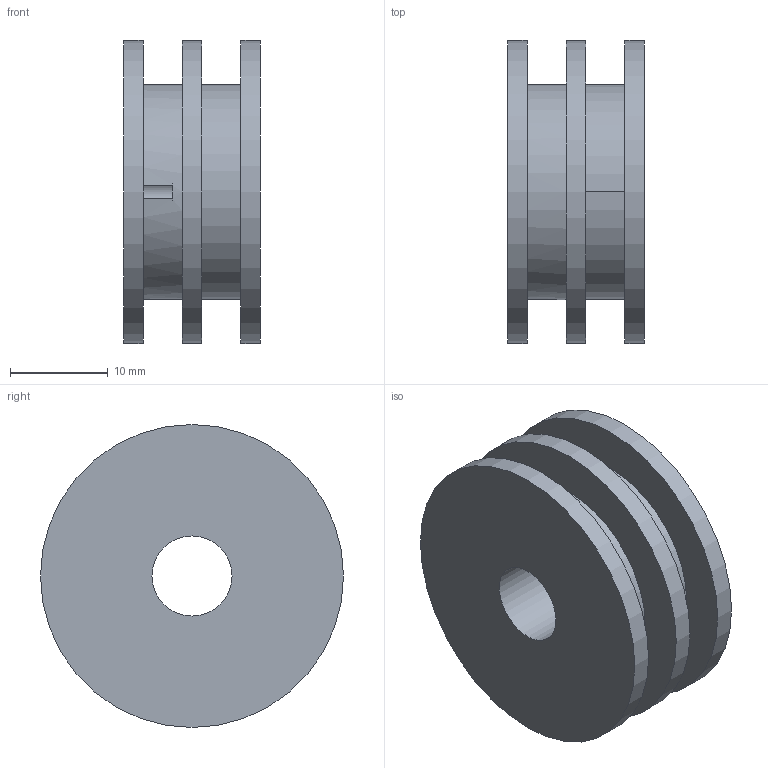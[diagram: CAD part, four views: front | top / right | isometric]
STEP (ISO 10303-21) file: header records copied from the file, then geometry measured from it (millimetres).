
FILE_DESCRIPTION(('Open CASCADE Model'),'2;1');
FILE_NAME('Open CASCADE Shape Model','2026-11-04T09:19:24',('Author'),( 'Open CASCADE'),'Open CASCADE STEP processor 7.8','Open CASCADE 7.8' ,'Unknown');
FILE_SCHEMA(('AUTOMOTIVE_DESIGN { 1 0 10303 214 1 1 1 1 }'));
Length unit declared in the file: millimetre
Products named in the file (1): Open CASCADE STEP translator 7.8 3
Bounding box: 14 x 31 x 31 mm (x, y, z)
Volume: 6795.5 mm3; surface area: 4457.9 mm2
Topology: 1 solids, 1 shells, 17 faces, 33 edges, 22 vertices
Faces by surface type: cylinder 9, plane 8
Full cylindrical faces by diameter (mm): 2.4 x1, 8.2 x1, 22 x1, 31 x3
Entity records: 887 total; most frequent: CARTESIAN_POINT 153, DIRECTION 148, ORIENTED_EDGE 66, PCURVE 66, DEFINITIONAL_REPRESENTATION 66, LINE 47, VECTOR 47, CIRCLE 43
